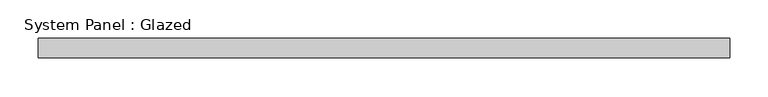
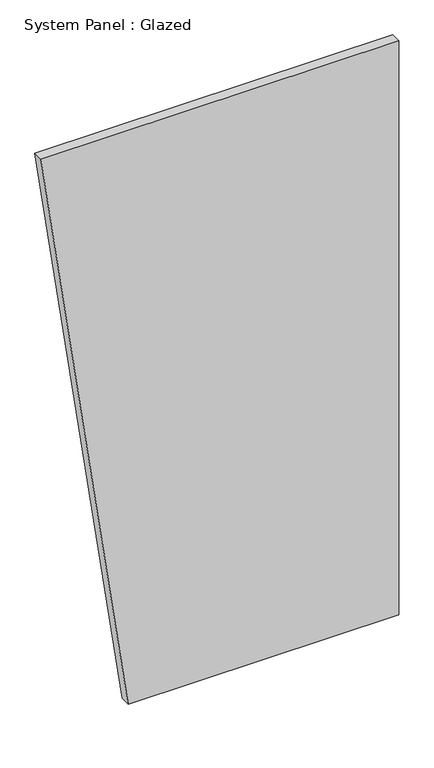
"""IFC4 building model written with IfcOpenShell, lengths in millimetres: plate geometry, System Panel : Glazed."""

import ifcopenshell
import ifcopenshell.guid

model = None  # the IFC model being written
_history = None  # IfcOwnerHistory: only IFC2X3 demands one
_inside = {}  # id of a spatial element -> (the spatial element, [elements in it])
_under = {}  # id of a project, library or spatial element -> (it, [spatial elements below it])
_declared = {}  # id of a project -> (the project, [libraries it declares])
_typed = {}  # id of a type object -> (the type object, [elements of that type])
_made_of = {}  # id of a material, layer set ... -> (it, [elements and type objects made of it])


def new_model(schema):
    """Start an empty IFC model of exactly this schema.

    Asked for "IFC4X3", IfcOpenShell would pick the latest addendum, in which some entities
    have other attributes; the version numbers below select the first issue.
    IFC2X3 requires an IfcOwnerHistory on every rooted entity: one is made here for all.
    """
    global model, _history
    if schema == "IFC4X3":
        model = ifcopenshell.file(schema_version=(4, 3, 0, 0))
    else:
        model = ifcopenshell.file(schema=schema)
    _inside.clear()
    _under.clear()
    _declared.clear()
    _typed.clear()
    _made_of.clear()
    _history = None
    if model.schema == "IFC2X3":
        org = make("IfcOrganization", Name="unknown")
        user = make(
            "IfcPersonAndOrganization",
            ThePerson=make("IfcPerson", FamilyName="unknown"),
            TheOrganization=org,
        )
        app = make(
            "IfcApplication",
            ApplicationDeveloper=org,
            Version="unknown",
            ApplicationFullName="unknown",
            ApplicationIdentifier="unknown",
        )
        _history = make(
            "IfcOwnerHistory",
            OwningUser=user,
            OwningApplication=app,
            ChangeAction="ADDED",
            CreationDate=0,
        )
    return model


def make(cls, **values):
    """One entity of the class cls with the attributes given. An attribute that is None is left unset."""
    return model.create_entity(
        cls, **{name: value for name, value in values.items() if value is not None}
    )


def rooted(cls, **values):
    """An entity with a GlobalId (a new one), such as an element, a storey or a relation."""
    return make(cls, GlobalId=ifcopenshell.guid.new(), OwnerHistory=_history, **values)


def si_unit(unit_type, name, prefix=None):
    """IfcSIUnit, for example si_unit("LENGTHUNIT", "METRE", prefix="MILLI")."""
    return make("IfcSIUnit", UnitType=unit_type, Prefix=prefix, Name=name)


def assignment(units):
    """IfcUnitAssignment: the units of a project."""
    return None if units is None else make("IfcUnitAssignment", Units=units)


def point(xyz):
    """IfcCartesianPoint."""
    return None if xyz is None else make("IfcCartesianPoint", Coordinates=xyz)


def direction(xyz):
    """IfcDirection."""
    return None if xyz is None else make("IfcDirection", DirectionRatios=xyz)


def frame(location, z_axis=None, x_axis=None):
    """IfcAxis2Placement3D, a coordinate frame: its origin and axes. An axis left out is left unset."""
    return make(
        "IfcAxis2Placement3D",
        Location=point(location),
        Axis=direction(z_axis),
        RefDirection=direction(x_axis),
    )


def origin():
    """The frame at (0, 0, 0) with its axes left unset."""
    return frame((0.0, 0.0, 0.0))


def place(relative_to, where):
    """IfcLocalPlacement: puts the frame where relative to a parent placement (None: the world)."""
    return make(
        "IfcLocalPlacement", PlacementRelTo=relative_to, RelativePlacement=where
    )


def context(
    kind, dimensions, precision=None, world=None, true_north=None, identifier=None
):
    """IfcGeometricRepresentationContext, for example the 3D "Model" context."""
    return make(
        "IfcGeometricRepresentationContext",
        ContextIdentifier=identifier,
        ContextType=kind,
        CoordinateSpaceDimension=dimensions,
        Precision=precision,
        WorldCoordinateSystem=world,
        TrueNorth=true_north,
    )


def project(units=None, contexts=None):
    """IfcProject with its units and contexts."""
    return rooted(
        "IfcProject",
        Name="project",
        RepresentationContexts=contexts,
        UnitsInContext=assignment(units),
    )


def spatial(cls, under=None, at=None, **own):
    """A site, building, storey or space (cls), placed at a placement, below another one or the project."""
    s = rooted(cls, ObjectPlacement=at, **own)
    if under is not None:
        _under.setdefault(under.id(), (under, []))[1].append(s)
    return s


def polyline(points):
    """IfcPolyline through the points."""
    return make("IfcPolyline", Points=[point(p) for p in points])


def outline(outer, holes=None, kind="AREA"):
    """IfcArbitraryClosedProfileDef: a profile drawn as a closed curve; with holes, ...WithVoids."""
    if holes is None:
        return make("IfcArbitraryClosedProfileDef", ProfileType=kind, OuterCurve=outer)
    return make(
        "IfcArbitraryProfileDefWithVoids",
        ProfileType=kind,
        OuterCurve=outer,
        InnerCurves=holes,
    )


def extrude(swept, where, along, depth):
    """IfcExtrudedAreaSolid: the profile swept, set in the frame where, extruded along a direction by depth."""
    return make(
        "IfcExtrudedAreaSolid",
        SweptArea=swept,
        Position=where,
        ExtrudedDirection=direction(along),
        Depth=depth,
    )


def shape(context_of_items, identifier, shape_type, items):
    """IfcShapeRepresentation: the items that make up one representation, for example the "Body"."""
    return make(
        "IfcShapeRepresentation",
        ContextOfItems=context_of_items,
        RepresentationIdentifier=identifier,
        RepresentationType=shape_type,
        Items=items,
    )


def source(mapping_origin, context_of_items, identifier, shape_type, items):
    """IfcRepresentationMap: a shape defined once, which mapped items show again and again."""
    return make(
        "IfcRepresentationMap",
        MappingOrigin=mapping_origin,
        MappedRepresentation=shape(context_of_items, identifier, shape_type, items),
    )


def transform(
    local_origin,
    x_axis=None,
    y_axis=None,
    z_axis=None,
    scale=None,
    scale2=None,
    scale3=None,
    uniform=True,
):
    """IfcCartesianTransformationOperator3D, or its non-uniform kind. x_axis, y_axis, z_axis: its Axis1, 2, 3."""
    if uniform:
        return make(
            "IfcCartesianTransformationOperator3D",
            Axis1=direction(x_axis),
            Axis2=direction(y_axis),
            LocalOrigin=point(local_origin),
            Scale=scale,
            Axis3=direction(z_axis),
        )
    return make(
        "IfcCartesianTransformationOperator3DnonUniform",
        Axis1=direction(x_axis),
        Axis2=direction(y_axis),
        LocalOrigin=point(local_origin),
        Scale=scale,
        Axis3=direction(z_axis),
        Scale2=scale2,
        Scale3=scale3,
    )


def mapped(mapping_source, mapping_target):
    """IfcMappedItem: shows the shape of a source again, moved by a transform."""
    return make(
        "IfcMappedItem", MappingSource=mapping_source, MappingTarget=mapping_target
    )


def made_of(thing, what):
    """Note that an element or type object is made of a material, layer set ...; save() writes the relation."""
    if what is not None:
        _made_of.setdefault(what.id(), (what, []))[1].append(thing)
    return thing


def element(
    cls,
    number,
    at=None,
    inside=None,
    cuts=None,
    type_object=None,
    material=None,
    context=None,
    identifier="Body",
    shape_type=None,
    held_by="IfcProductDefinitionShape",
    body=None,
    shapes=None,
    **own,
):
    """One element of the class cls, such as IfcWall. Its Tag is "e" and its number.

    at: its placement. inside: the storey or other place that contains it. cuts: it is an
    opening in that element (IfcRelVoidsElement). A single representation is given by context,
    identifier, shape_type and body (its items); several are given by shapes. held_by: the class
    of the entity that holds the representations. save() writes the other relations.
    """
    e = rooted(cls, Tag="e%d" % number, ObjectPlacement=at, **own)
    if body is not None:
        shapes = [shape(context, identifier, shape_type, body)]
    if shapes is not None:
        e.Representation = make(held_by, Representations=shapes)
    if inside is not None:
        _inside.setdefault(inside.id(), (inside, []))[1].append(e)
    if cuts is not None:
        rooted(
            "IfcRelVoidsElement", RelatingBuildingElement=cuts, RelatedOpeningElement=e
        )
    if type_object is not None:
        _typed.setdefault(type_object.id(), (type_object, []))[1].append(e)
    return made_of(e, material)


def aggregate(whole, parts):
    """IfcRelAggregates: a whole, such as a stair, and the parts it consists of."""
    return rooted("IfcRelAggregates", RelatingObject=whole, RelatedObjects=parts)


def save(model, path):
    """Write the relations noted so far, then the file.

    IfcRelAggregates (storeys below a building ...), IfcRelContainedInSpatialStructure (elements
    in a storey), IfcRelDefinesByType, IfcRelAssociatesMaterial and IfcRelDeclares: one each for
    every whole, place, type object, material and project.
    """
    for whole, parts in _under.values():
        aggregate(whole, parts)
    for where, things in _inside.values():
        rooted(
            "IfcRelContainedInSpatialStructure",
            RelatedElements=things,
            RelatingStructure=where,
        )
    for kind, things in _typed.values():
        rooted("IfcRelDefinesByType", RelatedObjects=things, RelatingType=kind)
    for what, things in _made_of.values():
        rooted("IfcRelAssociatesMaterial", RelatedObjects=things, RelatingMaterial=what)
    for by, libraries in _declared.values():
        rooted("IfcRelDeclares", RelatingContext=by, RelatedDefinitions=libraries)
    model.write(path)


def system_panel_glazed_e8e4244b(model_context):
    return source(origin(), model_context, "Body", "SweptSolid", [
        extrude(outline(polyline([(0.0, -230.2446045), (0.0, 449.52518), (1524.0, 449.52518), (1524.0, -449.52518), (0.0, -230.2446045)])), frame((0.0, 19.05, 0.0), z_axis=(0.0, 1.0, 0.0), x_axis=(0.0, 0.0, 1.0)), (0.0, 0.0, 1.0), 25.4),
    ])


if __name__ == "__main__":
    model = new_model("IFC4")
    model_context = context("Model", 3, world=origin())
    ifc_project = project(units=[si_unit("LENGTHUNIT", "METRE", prefix="MILLI")], contexts=[model_context])
    site = spatial("IfcSite", under=ifc_project)
    building = spatial("IfcBuilding", under=site)
    placement = place(None, origin())
    system_panel_glazed_shape = system_panel_glazed_e8e4244b(model_context)
    element("IfcPlate", 1, ObjectType="System Panel : Glazed", at=placement, inside=building, context=model_context, shape_type="MappedRepresentation", body=[
        mapped(system_panel_glazed_shape, transform((0.0, 0.0, 0.0), x_axis=(1.0, 0.0, 0.0), y_axis=(0.0, 1.0, 0.0), z_axis=(0.0, 0.0, 1.0))),
    ])
    save(model, "model.ifc")
